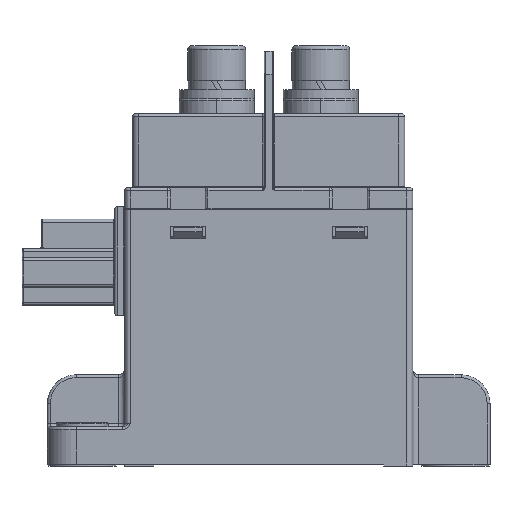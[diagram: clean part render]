
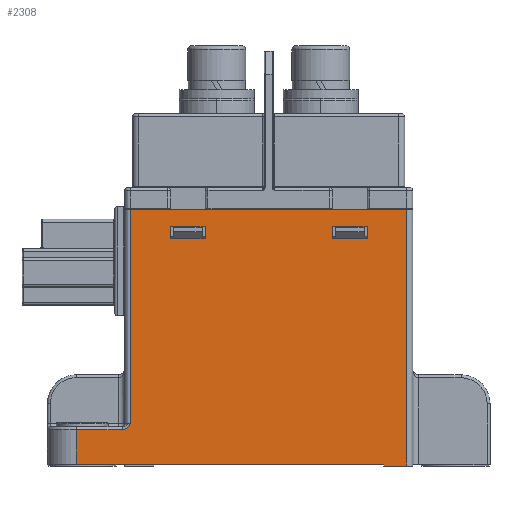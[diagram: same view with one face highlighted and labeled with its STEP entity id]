
A CAD part, top view. The second image highlights one B-rep face of the part: STEP entity #2308.
In plain terms, the highlighted planar face has unit normal (0, 0, 1).
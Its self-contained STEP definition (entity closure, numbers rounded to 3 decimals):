
#128 = LINE ( 'NONE', #34646, #25302 ) ;
#230 = EDGE_CURVE ( 'NONE', #12291, #785, #32941, .T. ) ;
#368 = EDGE_CURVE ( 'NONE', #8680, #27397, #27346, .T. ) ;
#473 = EDGE_LOOP ( 'NONE', ( #31573, #11166, #34881, #9311, #7774, #21543, #6954, #1113, #29226 ) ) ;
#555 = EDGE_CURVE ( 'NONE', #11481, #8680, #33362, .T. ) ;
#585 = DIRECTION ( 'NONE',  ( -1., 0., 0. ) ) ;
#785 = VERTEX_POINT ( 'NONE', #31158 ) ;
#889 = VECTOR ( 'NONE', #10582, 1000. ) ;
#948 = CARTESIAN_POINT ( 'NONE',  ( -11., 41.1, 19.5 ) ) ;
#1104 = EDGE_LOOP ( 'NONE', ( #14779, #6216, #16730, #3766 ) ) ;
#1113 = ORIENTED_EDGE ( 'NONE', *, *, #4511, .T. ) ;
#2308 = ADVANCED_FACE ( 'NONE', ( #35375, #20188, #28844 ), #19455, .F. ) ;
#2481 = CARTESIAN_POINT ( 'NONE',  ( -17., 1.8, 19.5 ) ) ;
#2668 = LINE ( 'NONE', #9665, #23900 ) ;
#2727 = DIRECTION ( 'NONE',  ( 0., 0., -1. ) ) ;
#2875 = VECTOR ( 'NONE', #3535, 1000. ) ;
#3058 = CARTESIAN_POINT ( 'NONE',  ( -23.9, 7., 19.5 ) ) ;
#3067 = AXIS2_PLACEMENT_3D ( 'NONE', #23923, #2727, #13830 ) ;
#3535 = DIRECTION ( 'NONE',  ( 1., 0., 0. ) ) ;
#3750 = LINE ( 'NONE', #26166, #6787 ) ;
#3766 = ORIENTED_EDGE ( 'NONE', *, *, #230, .T. ) ;
#3932 = LINE ( 'NONE', #13560, #14333 ) ;
#4402 = EDGE_CURVE ( 'NONE', #785, #12276, #2668, .T. ) ;
#4511 = EDGE_CURVE ( 'NONE', #7409, #11231, #19981, .T. ) ;
#4569 = CARTESIAN_POINT ( 'NONE',  ( 17., 1.8, 19.5 ) ) ;
#4629 = LINE ( 'NONE', #25347, #2875 ) ;
#5191 = EDGE_CURVE ( 'NONE', #18398, #9502, #7006, .T. ) ;
#5463 = EDGE_CURVE ( 'NONE', #12276, #21507, #10391, .T. ) ;
#5574 = CARTESIAN_POINT ( 'NONE',  ( -33.25, 6., 19.5 ) ) ;
#5816 = CARTESIAN_POINT ( 'NONE',  ( 17., 41.1, 19.5 ) ) ;
#6066 = VERTEX_POINT ( 'NONE', #7769 ) ;
#6216 = ORIENTED_EDGE ( 'NONE', *, *, #5463, .T. ) ;
#6439 = ORIENTED_EDGE ( 'NONE', *, *, #368, .T. ) ;
#6492 = DIRECTION ( 'NONE',  ( 0., -1., 0. ) ) ;
#6787 = VECTOR ( 'NONE', #31364, 1000. ) ;
#6954 = ORIENTED_EDGE ( 'NONE', *, *, #26972, .F. ) ;
#7006 = LINE ( 'NONE', #5574, #35592 ) ;
#7409 = VERTEX_POINT ( 'NONE', #28650 ) ;
#7769 = CARTESIAN_POINT ( 'NONE',  ( -17., 41.1, 19.5 ) ) ;
#7774 = ORIENTED_EDGE ( 'NONE', *, *, #29842, .T. ) ;
#7889 = DIRECTION ( 'NONE',  ( 1., 0., 0. ) ) ;
#7996 = VERTEX_POINT ( 'NONE', #22934 ) ;
#8680 = VERTEX_POINT ( 'NONE', #23467 ) ;
#9217 = ORIENTED_EDGE ( 'NONE', *, *, #555, .T. ) ;
#9311 = ORIENTED_EDGE ( 'NONE', *, *, #11094, .T. ) ;
#9502 = VERTEX_POINT ( 'NONE', #15032 ) ;
#9527 = LINE ( 'NONE', #2481, #889 ) ;
#9665 = CARTESIAN_POINT ( 'NONE',  ( 24.9, 41.1, 19.5 ) ) ;
#10391 = LINE ( 'NONE', #4569, #26024 ) ;
#10582 = DIRECTION ( 'NONE',  ( 0., 1., 0. ) ) ;
#11094 = EDGE_CURVE ( 'NONE', #9502, #28112, #128, .T. ) ;
#11166 = ORIENTED_EDGE ( 'NONE', *, *, #29651, .T. ) ;
#11231 = VERTEX_POINT ( 'NONE', #32923 ) ;
#11481 = VERTEX_POINT ( 'NONE', #948 ) ;
#11724 = VECTOR ( 'NONE', #585, 1000. ) ;
#12183 = CARTESIAN_POINT ( 'NONE',  ( 19.9, 0., 19.5 ) ) ;
#12276 = VERTEX_POINT ( 'NONE', #5816 ) ;
#12291 = VERTEX_POINT ( 'NONE', #17253 ) ;
#12936 = DIRECTION ( 'NONE',  ( 0., 1., 0. ) ) ;
#13560 = CARTESIAN_POINT ( 'NONE',  ( 24.9, 39., 19.5 ) ) ;
#13571 = CARTESIAN_POINT ( 'NONE',  ( 24.9, 0., 19.5 ) ) ;
#13655 = VECTOR ( 'NONE', #7889, 1000. ) ;
#13830 = DIRECTION ( 'NONE',  ( -1., 0., 0. ) ) ;
#14333 = VECTOR ( 'NONE', #35388, 1000. ) ;
#14779 = ORIENTED_EDGE ( 'NONE', *, *, #4402, .T. ) ;
#15011 = CARTESIAN_POINT ( 'NONE',  ( 19.9, -0.3, 19.5 ) ) ;
#15032 = CARTESIAN_POINT ( 'NONE',  ( -33.25, 6., 19.5 ) ) ;
#15044 = CARTESIAN_POINT ( 'NONE',  ( -25.162, 6., 19.5 ) ) ;
#15292 = CARTESIAN_POINT ( 'NONE',  ( -25.314, 6., 19.5 ) ) ;
#15878 = CARTESIAN_POINT ( 'NONE',  ( 11., 1.8, 19.5 ) ) ;
#16730 = ORIENTED_EDGE ( 'NONE', *, *, #17412, .T. ) ;
#17179 = CARTESIAN_POINT ( 'NONE',  ( 24.9, 39., 19.5 ) ) ;
#17253 = CARTESIAN_POINT ( 'NONE',  ( 11., 39., 19.5 ) ) ;
#17412 = EDGE_CURVE ( 'NONE', #21507, #12291, #3932, .T. ) ;
#17716 = CARTESIAN_POINT ( 'NONE',  ( -25.013, 6.031, 19.5 ) ) ;
#17789 = LINE ( 'NONE', #31298, #22551 ) ;
#18344 = CARTESIAN_POINT ( 'NONE',  ( 19.9, -0.3, 19.5 ) ) ;
#18398 = VERTEX_POINT ( 'NONE', #25030 ) ;
#18935 = VERTEX_POINT ( 'NONE', #3058 ) ;
#18981 = LINE ( 'NONE', #18344, #32794 ) ;
#19358 = DIRECTION ( 'NONE',  ( -1., 0., 0. ) ) ;
#19455 = PLANE ( 'NONE',  #3067 ) ;
#19589 = CARTESIAN_POINT ( 'NONE',  ( 24.9, -0.3, 19.5 ) ) ;
#19981 = LINE ( 'NONE', #32303, #35582 ) ;
#20188 = FACE_BOUND ( 'NONE', #1104, .T. ) ;
#21056 = DIRECTION ( 'NONE',  ( 0., -1., 0. ) ) ;
#21190 = VERTEX_POINT ( 'NONE', #12183 ) ;
#21449 = EDGE_CURVE ( 'NONE', #27397, #6066, #9527, .T. ) ;
#21507 = VERTEX_POINT ( 'NONE', #30296 ) ;
#21543 = ORIENTED_EDGE ( 'NONE', *, *, #23635, .F. ) ;
#22473 = EDGE_CURVE ( 'NONE', #7996, #18935, #17789, .T. ) ;
#22551 = VECTOR ( 'NONE', #6492, 1000. ) ;
#22934 = CARTESIAN_POINT ( 'NONE',  ( -23.9, 44.1, 19.5 ) ) ;
#23211 = ORIENTED_EDGE ( 'NONE', *, *, #23954, .T. ) ;
#23467 = CARTESIAN_POINT ( 'NONE',  ( -11., 39., 19.5 ) ) ;
#23540 = CARTESIAN_POINT ( 'NONE',  ( -23.9, 7., 19.5 ) ) ;
#23635 = EDGE_CURVE ( 'NONE', #35584, #21190, #18981, .T. ) ;
#23899 = CARTESIAN_POINT ( 'NONE',  ( -17., 39., 19.5 ) ) ;
#23900 = VECTOR ( 'NONE', #34280, 1000. ) ;
#23923 = CARTESIAN_POINT ( 'NONE',  ( 24.9, 1.8, 19.5 ) ) ;
#23954 = EDGE_CURVE ( 'NONE', #6066, #11481, #4629, .T. ) ;
#24075 = EDGE_CURVE ( 'NONE', #7996, #11231, #3750, .T. ) ;
#24686 = DIRECTION ( 'NONE',  ( -1., 0., 0. ) ) ;
#25030 = CARTESIAN_POINT ( 'NONE',  ( -25.314, 6., 19.5 ) ) ;
#25302 = VECTOR ( 'NONE', #35386, 1000. ) ;
#25347 = CARTESIAN_POINT ( 'NONE',  ( 24.9, 41.1, 19.5 ) ) ;
#26017 = VECTOR ( 'NONE', #21056, 1000. ) ;
#26024 = VECTOR ( 'NONE', #29437, 1000. ) ;
#26166 = CARTESIAN_POINT ( 'NONE',  ( -24.9, 44.1, 19.5 ) ) ;
#26305 = CARTESIAN_POINT ( 'NONE',  ( -24.732, 6.142, 19.5 ) ) ;
#26551 = DIRECTION ( 'NONE',  ( 0., 1., 0. ) ) ;
#26972 = EDGE_CURVE ( 'NONE', #7409, #35584, #29882, .T. ) ;
#27018 = DIRECTION ( 'NONE',  ( 0., 1., 0. ) ) ;
#27346 = LINE ( 'NONE', #17179, #11724 ) ;
#27397 = VERTEX_POINT ( 'NONE', #23899 ) ;
#27731 = B_SPLINE_CURVE_WITH_KNOTS ( 'NONE', 3,
 ( #23540, #34299, #29066, #34169, #26305, #17716, #15044, #15292 ),
 .UNSPECIFIED., .F., .F.,
 ( 4, 2, 2, 4 ),
 ( 0., 0.001, 0.001, 0.002 ),
 .UNSPECIFIED. ) ;
#28112 = VERTEX_POINT ( 'NONE', #31087 ) ;
#28650 = CARTESIAN_POINT ( 'NONE',  ( 23.9, -0.3, 19.5 ) ) ;
#28844 = FACE_OUTER_BOUND ( 'NONE', #473, .T. ) ;
#29066 = CARTESIAN_POINT ( 'NONE',  ( -24.252, 6.507, 19.5 ) ) ;
#29226 = ORIENTED_EDGE ( 'NONE', *, *, #24075, .F. ) ;
#29246 = LINE ( 'NONE', #13571, #13655 ) ;
#29409 = EDGE_LOOP ( 'NONE', ( #23211, #9217, #6439, #29799 ) ) ;
#29437 = DIRECTION ( 'NONE',  ( 0., -1., 0. ) ) ;
#29651 = EDGE_CURVE ( 'NONE', #18935, #18398, #27731, .T. ) ;
#29799 = ORIENTED_EDGE ( 'NONE', *, *, #21449, .T. ) ;
#29842 = EDGE_CURVE ( 'NONE', #28112, #21190, #29246, .T. ) ;
#29882 = LINE ( 'NONE', #19589, #30338 ) ;
#30296 = CARTESIAN_POINT ( 'NONE',  ( 17., 39., 19.5 ) ) ;
#30338 = VECTOR ( 'NONE', #19358, 1000. ) ;
#31087 = CARTESIAN_POINT ( 'NONE',  ( -33.25, 0., 19.5 ) ) ;
#31158 = CARTESIAN_POINT ( 'NONE',  ( 11., 41.1, 19.5 ) ) ;
#31298 = CARTESIAN_POINT ( 'NONE',  ( -23.9, 1.8, 19.5 ) ) ;
#31364 = DIRECTION ( 'NONE',  ( 1., 0., 0. ) ) ;
#31573 = ORIENTED_EDGE ( 'NONE', *, *, #22473, .T. ) ;
#32303 = CARTESIAN_POINT ( 'NONE',  ( 23.9, 1.8, 19.5 ) ) ;
#32480 = VECTOR ( 'NONE', #27018, 1000. ) ;
#32794 = VECTOR ( 'NONE', #26551, 1000. ) ;
#32923 = CARTESIAN_POINT ( 'NONE',  ( 23.9, 44.1, 19.5 ) ) ;
#32941 = LINE ( 'NONE', #15878, #32480 ) ;
#33362 = LINE ( 'NONE', #35328, #26017 ) ;
#34169 = CARTESIAN_POINT ( 'NONE',  ( -24.602, 6.222, 19.5 ) ) ;
#34280 = DIRECTION ( 'NONE',  ( 1., 0., 0. ) ) ;
#34299 = CARTESIAN_POINT ( 'NONE',  ( -24.074, 6.754, 19.5 ) ) ;
#34646 = CARTESIAN_POINT ( 'NONE',  ( -33.25, 0., 19.5 ) ) ;
#34881 = ORIENTED_EDGE ( 'NONE', *, *, #5191, .T. ) ;
#35328 = CARTESIAN_POINT ( 'NONE',  ( -11., 1.8, 19.5 ) ) ;
#35375 = FACE_BOUND ( 'NONE', #29409, .T. ) ;
#35386 = DIRECTION ( 'NONE',  ( 0., -1., 0. ) ) ;
#35388 = DIRECTION ( 'NONE',  ( -1., 0., 0. ) ) ;
#35582 = VECTOR ( 'NONE', #12936, 1000. ) ;
#35584 = VERTEX_POINT ( 'NONE', #15011 ) ;
#35592 = VECTOR ( 'NONE', #24686, 1000. ) ;
